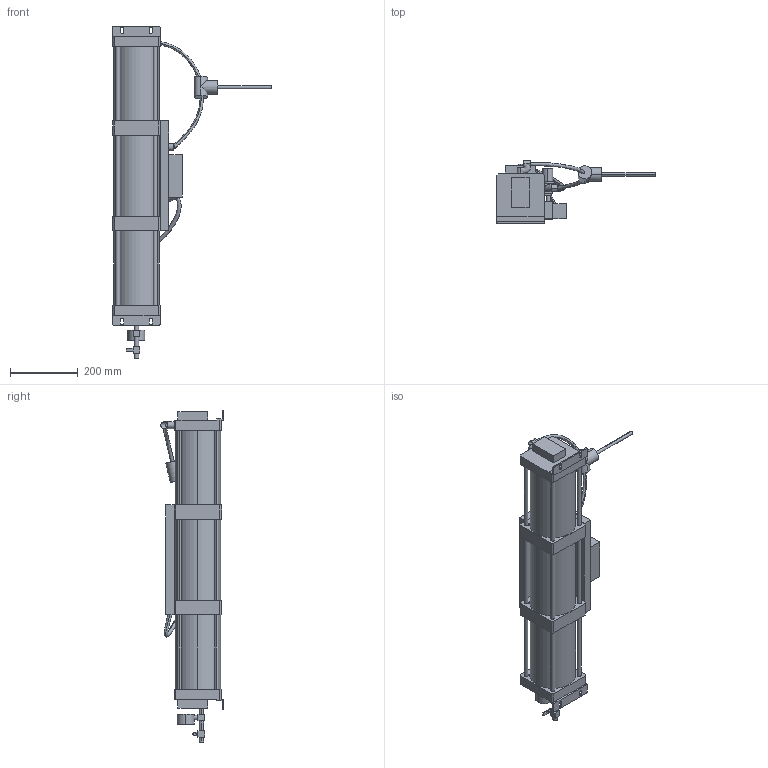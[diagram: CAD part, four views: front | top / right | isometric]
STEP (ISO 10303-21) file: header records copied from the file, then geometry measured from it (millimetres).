
FILE_DESCRIPTION (( 'STEP AP203' ), '1' );
FILE_NAME ('MBA-1210.STEP', '2016-03-31T04:42:52', ( 'WIN' ), ( '' ), 'SwSTEP 2.0', 'SolidWorks 2014', '' );
FILE_SCHEMA (( 'CONFIG_CONTROL_DESIGN' ));
Length unit declared in the file: millimetre
Products named in the file (1): MBA-1210
Bounding box: 467.85 x 185 x 979.4 mm (x, y, z)
Volume: 14826911.3 mm3; surface area: 813909.8 mm2
Topology: 4 solids, 4 shells, 269 faces, 678 edges, 437 vertices
Faces by surface type: plane 148, cylinder 98, cone 10, bspline 8, sphere 3, torus 2
Entity records: 9487 total; most frequent: CARTESIAN_POINT 2892, DIRECTION 1366, ORIENTED_EDGE 1312, EDGE_CURVE 656, AXIS2_PLACEMENT_3D 478, VERTEX_POINT 432, LINE 410, VECTOR 410
